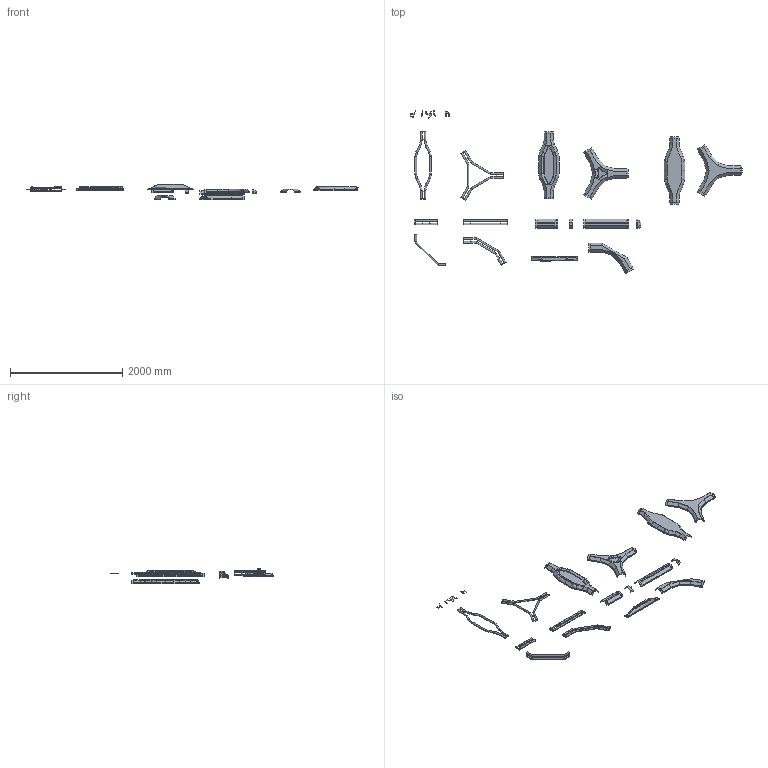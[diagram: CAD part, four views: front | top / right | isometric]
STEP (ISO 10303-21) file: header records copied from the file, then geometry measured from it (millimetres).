
FILE_DESCRIPTION(/* description */ (''),/* implementation_level */ '2;1');
FILE_NAME(/* name */ 'TRIPSYLON',/* time_stamp */ '2026-08-24T09:41:11+02:00',/* author */ (''),/* organization */ (''),/* preprocessor_version */ 'ST-DEVELOPER v19.2',/* originating_system */ 'Rhino 8.34',/* authorisation */ '');
FILE_SCHEMA (('CONFIG_CONTROL_DESIGN'));
Length unit declared in the file: millimetre
Products named in the file (1): Document
Bounding box: 5915.74 x 2902.32 x 268.48 mm (x, y, z)
Volume: 12344875.4 mm3; surface area: 6089376.6 mm2
Topology: 40 solids, 66 shells, 1288 faces, 4006 edges, 3363 vertices
Faces by surface type: cylinder 452, plane 449, bspline 387
Entity records: 77954 total; most frequent: CARTESIAN_POINT 55848, ORIENTED_EDGE 6268, EDGE_CURVE 3282, VERTEX_POINT 1996, B_SPLINE_CURVE_WITH_KNOTS 1822, DIRECTION 1672, EDGE_LOOP 1290, ADVANCED_FACE 1282
